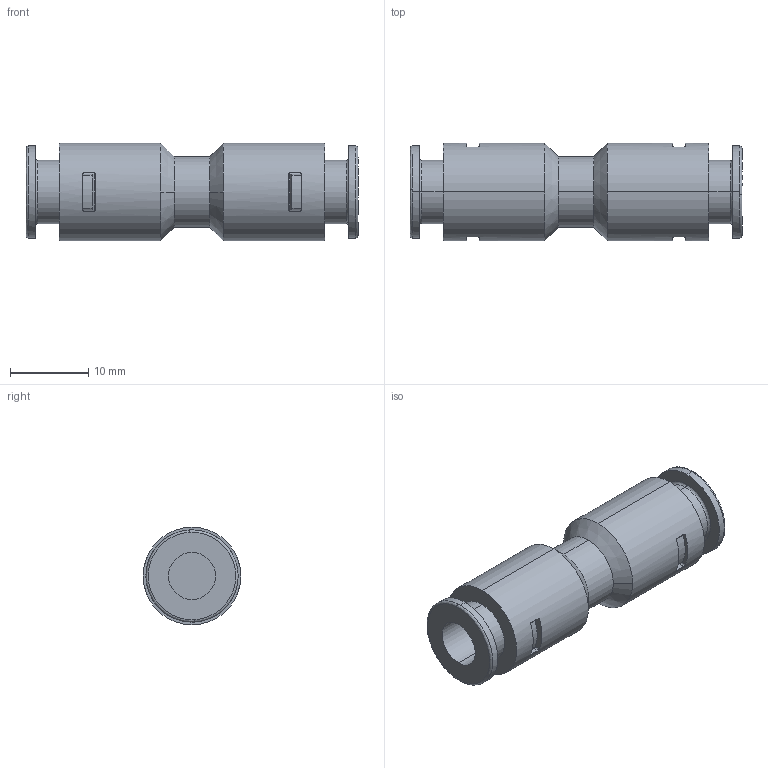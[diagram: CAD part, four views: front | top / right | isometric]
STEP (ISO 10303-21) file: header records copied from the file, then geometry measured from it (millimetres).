
FILE_DESCRIPTION (( 'STEP AP214' ), '1' );
FILE_NAME ('KQ2H06-00A.STEP', '2023-03-06T08:59:08', ( 'Windows User' ), ( 'P R C' ), 'SwSTEP 2.0', 'SolidWorks 2019', '' );
FILE_SCHEMA (( 'AUTOMOTIVE_DESIGN' ));
Length unit declared in the file: millimetre
Products named in the file (1): KQ2H06-00A
Bounding box: 42.5 x 12.5 x 12.5 mm (x, y, z)
Volume: 3179.9 mm3; surface area: 2858.5 mm2
Topology: 1 solids, 1 shells, 99 faces, 261 edges, 174 vertices
Faces by surface type: cylinder 51, plane 32, bspline 8, cone 8
Entity records: 3627 total; most frequent: CARTESIAN_POINT 1195, ORIENTED_EDGE 522, DIRECTION 483, EDGE_CURVE 261, AXIS2_PLACEMENT_3D 190, VERTEX_POINT 174, EDGE_LOOP 109, VECTOR 103
